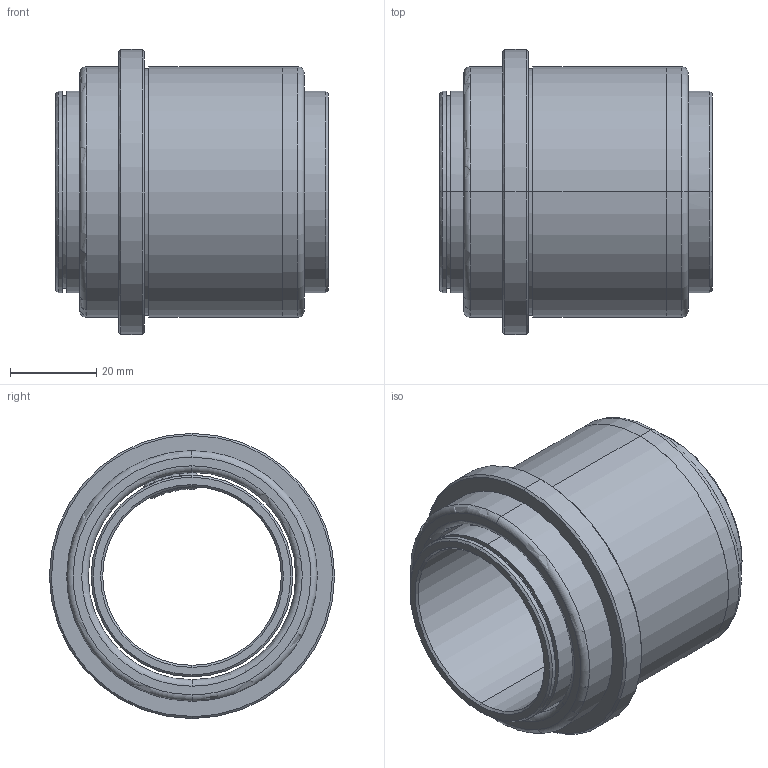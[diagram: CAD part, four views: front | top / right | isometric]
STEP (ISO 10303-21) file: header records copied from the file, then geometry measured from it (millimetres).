
FILE_DESCRIPTION(('CATIA V5 STEP Exchange'),'2;1');
FILE_NAME('C:\Users\Utente\Desktop\IO LAVORO\3D X SITO CF\X SITO\732\732-40.stp','2021-01-10T19:21:33+00:00',('none'),('none'),'CATIA Version 5 Release 20 GA (IN-10)','CATIA V5 STEP AP203','none');
FILE_SCHEMA(('CONFIG_CONTROL_DESIGN'));
Length unit declared in the file: millimetre
Products named in the file (1): 732-40
Assembly tree (2 placements, depth 2):
  732-40
    #58
    #1297
Bounding box: 63 x 66 x 66 mm (x, y, z)
Volume: 70519.5 mm3; surface area: 38606.1 mm2
Topology: 2 solids, 2 shells, 74 faces, 217 edges, 163 vertices
Faces by surface type: sphere 24, cylinder 20, cone 12, plane 10, torus 8
Entity records: 3057 total; most frequent: CARTESIAN_POINT 1067, ORIENTED_EDGE 434, DIRECTION 310, EDGE_CURVE 217, AXIS2_PLACEMENT_3D 198, VERTEX_POINT 163, CIRCLE 120, EDGE_LOOP 94
